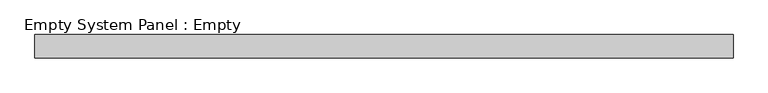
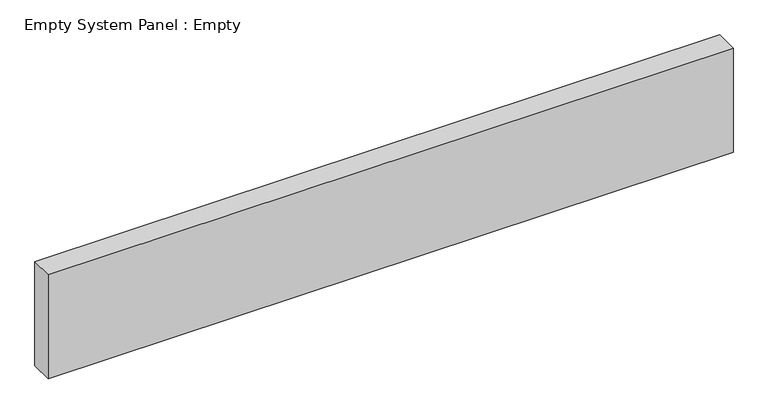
"""IFC4 building model written with IfcOpenShell, lengths in millimetres: plate geometry, Empty System Panel : Empty."""

from ifc_helpers import new_model, si_unit, origin, origin_with_axes, place, context, project, spatial, polyline, outline, extrude, source, transform, mapped, element, save


def empty_system_panel_empty_4af019a5(model_context):
    return source(origin(), model_context, "Body", "SweptSolid", [
        extrude(outline(polyline([(1500.0, -50.0), (-1500.0, -50.0), (-1500.0, 50.0), (1500.0, 50.0), (1500.0, -50.0)])), origin_with_axes(), (0.0, 0.0, 1.0), 482.0),
    ])


if __name__ == "__main__":
    model = new_model("IFC4")
    model_context = context("Model", 3, world=origin())
    ifc_project = project(units=[si_unit("LENGTHUNIT", "METRE", prefix="MILLI")], contexts=[model_context])
    site = spatial("IfcSite", under=ifc_project)
    building = spatial("IfcBuilding", under=site)
    placement = place(None, origin())
    empty_system_panel_empty_shape = empty_system_panel_empty_4af019a5(model_context)
    element("IfcPlate", 1, ObjectType="Empty System Panel : Empty", at=placement, inside=building, context=model_context, shape_type="MappedRepresentation", body=[
        mapped(empty_system_panel_empty_shape, transform((0.0, 0.0, 0.0), x_axis=(1.0, 0.0, 0.0), y_axis=(0.0, 1.0, 0.0), z_axis=(0.0, 0.0, 1.0))),
    ])
    save(model, "model.ifc")
